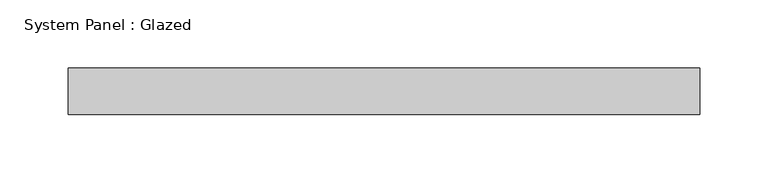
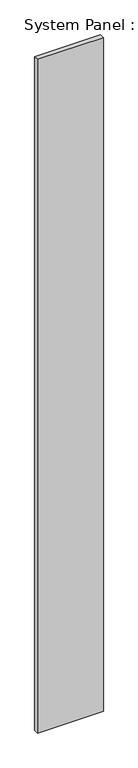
"""IFC4 building model written with IfcOpenShell, lengths in millimetres: plate geometry, System Panel : Glazed."""

from ifc_helpers import new_model, si_unit, origin, origin_with_axes, place, context, project, spatial, polyline, outline, extrude, source, transform, mapped, element, save


def system_panel_glazed_0bdd39fc(model_context):
    return source(origin(), model_context, "Body", "SweptSolid", [
        extrude(outline(polyline([(231.1111111, -17.0), (-231.1111111, -17.0), (-231.1111111, 17.0), (231.1111111, 17.0), (231.1111111, -17.0)])), origin_with_axes(), (0.0, 0.0, 1.0), 5000.0),
    ])


if __name__ == "__main__":
    model = new_model("IFC4")
    model_context = context("Model", 3, world=origin())
    ifc_project = project(units=[si_unit("LENGTHUNIT", "METRE", prefix="MILLI")], contexts=[model_context])
    site = spatial("IfcSite", under=ifc_project)
    building = spatial("IfcBuilding", under=site)
    placement = place(None, origin())
    system_panel_glazed_shape = system_panel_glazed_0bdd39fc(model_context)
    element("IfcPlate", 1, ObjectType="System Panel : Glazed", at=placement, inside=building, context=model_context, shape_type="MappedRepresentation", body=[
        mapped(system_panel_glazed_shape, transform((0.0, 0.0, 0.0), x_axis=(1.0, 0.0, 0.0), y_axis=(0.0, 1.0, 0.0), z_axis=(0.0, 0.0, 1.0))),
    ])
    save(model, "model.ifc")
